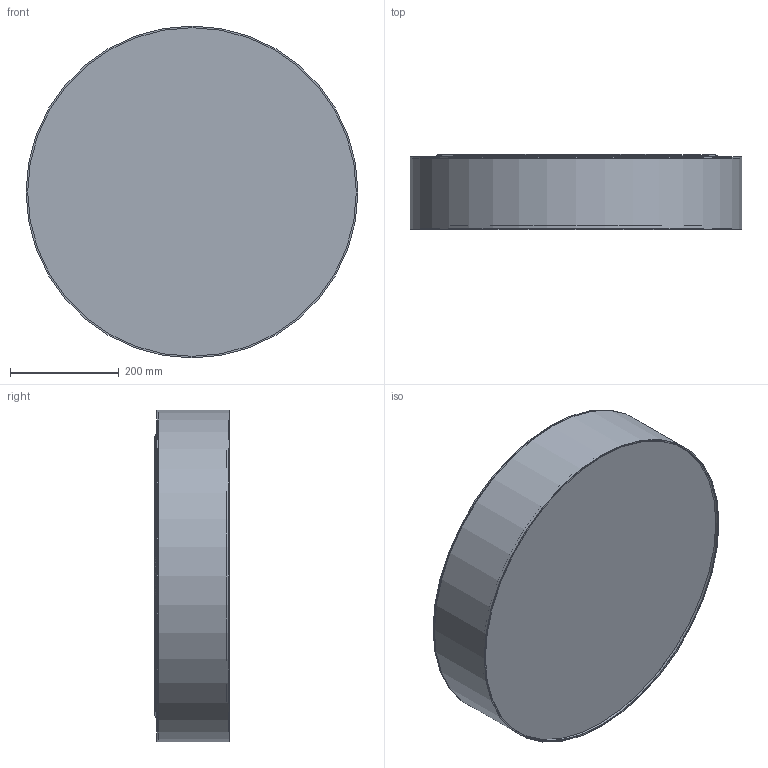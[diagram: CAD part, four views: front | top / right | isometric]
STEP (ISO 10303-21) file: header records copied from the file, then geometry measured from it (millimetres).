
FILE_DESCRIPTION(/* description */ (''),/* implementation_level */ '2;1');
FILE_NAME(/* name */ 'C:/Users/kubaw/OneDrive/Pulpit/TK_lighting - modele 2/OK/1581_RONDO v5/1581_RONDO v5.step',/* time_stamp */ '2021-04-02T06:40:39+02:00',/* author */ (''),/* organization */ (''),/* preprocessor_version */ 'ST-DEVELOPER v18.1',/* originating_system */ 'Autodesk Translation Framework v9.10.0.1330',/* authorisation */ '');
FILE_SCHEMA (('AUTOMOTIVE_DESIGN { 1 0 10303 214 3 1 1 }'));
Length unit declared in the file: millimetre
Products named in the file (3): 1581_RONDO; POKRYWA_1581; MOCOWANIE RONDO_PLAFON
Assembly tree (2 placements, depth 2):
  1581_RONDO
    POKRYWA_1581
    MOCOWANIE RONDO_PLAFON
Bounding box: 610 x 137 x 610 mm (x, y, z)
Volume: 987647.5 mm3; surface area: 1803744.3 mm2
Topology: 33 solids, 33 shells, 364 faces, 835 edges, 540 vertices
Faces by surface type: plane 270, cylinder 66, torus 24, bspline 4
Full cylindrical faces by diameter (mm): 14.819 x8, 18 x1, 20 x4, 20.058 x4, 28.544 x4, 30 x4, 40 x4, 45 x4, 96 x1, 100 x1, 604 x1, 606 x1, 608 x2, 610 x2
Entity records: 10345 total; most frequent: CARTESIAN_POINT 1777, DIRECTION 1763, ORIENTED_EDGE 1670, EDGE_CURVE 835, LINE 639, VECTOR 639, AXIS2_PLACEMENT_3D 562, VERTEX_POINT 540
